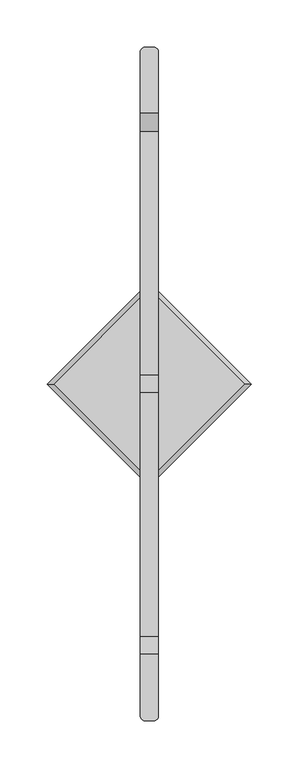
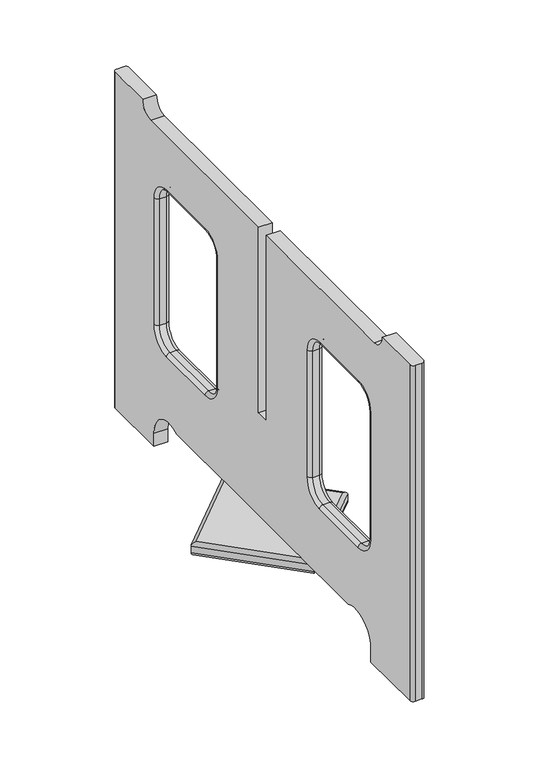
"""IFC4 building model written with IfcOpenShell, lengths in millimetres: furniture geometry, SSL-Childcraft_Outdoor-Table-Round : 2161358."""

from ifc_helpers import new_model, si_unit, point, frame, origin, place, context, project, spatial, polyline, circle_curve, ellipse_curve, trimmed, source, transform, mapped, element, save
from ifc_brep_helpers import plane_surface, cylinder_surface, revolved_surface, advanced_brep


def furniture_97a84487(model_context):
    return source(origin(), model_context, "Body", "AdvancedBrep", [
        advanced_brep(
        [(0.0, -107.7630735, 36.5124717), (0.0, -101.0278814, 31.7499717), (101.0278814, 0.0, 31.7499717), (107.7630735, 0.0, 36.5124717), (107.7630735, 0.0, 46.0374717), (0.0, -107.7630735, 46.0374717), (101.0278814, 0.0, 50.7999717), (0.0, -101.0278814, 50.7999717), (0.0, 101.0278814, 31.7499717), (0.0, 107.7630735, 36.5124717), (0.0, 107.7630735, 46.0374717), (0.0, 101.0278814, 50.7999717), (-101.0278814, 0.0, 31.7499717), (-107.7630735, 0.0, 36.5124717), (-107.7630735, 0.0, 46.0374717), (-101.0278814, 0.0, 50.7999717)],
        [
            (0, 1, ellipse_curve(frame((0.0, -101.0278814, 36.5124717), z_axis=(1.0, 0.0, 0.0), x_axis=(0.0, -1.0, 0.0)), 6.7351921, 4.7625)),
            (1, 2),
            (2, 3, ellipse_curve(frame((101.0278814, 0.0, 36.5124717), z_axis=(0.0, -1.0, 0.0), x_axis=(-1.0, 0.0, 0.0)), 6.7351921, 4.7625)),
            (3, 0),
            (3, 4),
            (4, 5),
            (5, 0),
            (4, 6, ellipse_curve(frame((101.0278814, 0.0, 46.0374717), z_axis=(0.0, -1.0, 0.0), x_axis=(-1.0, 0.0, 0.0)), 6.7351921, 4.7625)),
            (6, 7),
            (7, 5, ellipse_curve(frame((0.0, -101.0278814, 46.0374717), z_axis=(1.0, 0.0, 0.0), x_axis=(0.0, -1.0, 0.0)), 6.7351921, 4.7625)),
            (2, 8),
            (8, 9, ellipse_curve(frame((0.0, 101.0278814, 36.5124717), z_axis=(1.0, 0.0, 0.0), x_axis=(0.0, -1.0, 0.0)), 6.7351921, 4.7625)),
            (9, 3),
            (9, 10),
            (10, 4),
            (10, 11, ellipse_curve(frame((0.0, 101.0278814, 46.0374717), z_axis=(1.0, 0.0, 0.0), x_axis=(0.0, -1.0, 0.0)), 6.7351921, 4.7625)),
            (11, 6),
            (8, 12),
            (12, 13, ellipse_curve(frame((-101.0278814, 0.0, 36.5124717), z_axis=(0.0, 1.0, 0.0), x_axis=(1.0, 0.0, 0.0)), 6.7351921, 4.7625)),
            (13, 9),
            (13, 14),
            (14, 10),
            (14, 15, ellipse_curve(frame((-101.0278814, 0.0, 46.0374717), z_axis=(0.0, 1.0, 0.0), x_axis=(1.0, 0.0, 0.0)), 6.7351921, 4.7625)),
            (15, 11),
            (1, 12),
            (0, 13),
            (5, 14),
            (7, 15),
        ],
        [
            cylinder_surface(frame((-3.367596, -104.3954774, 36.5124717), z_axis=(-0.7071067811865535, -0.7071067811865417, 0.0), x_axis=(-0.7071067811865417, 0.7071067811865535, 0.0)), 4.7625),
            plane_surface(frame((0.0, -107.7630735, 36.5124717), z_axis=(0.7071067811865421, -0.707106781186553, 0.0), x_axis=(0.707106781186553, 0.7071067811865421, 0.0))),
            cylinder_surface(frame((-3.367596, -104.3954774, 46.0374717), z_axis=(-0.7071067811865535, -0.7071067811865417, 0.0), x_axis=(-0.7071067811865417, 0.7071067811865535, 0.0)), 4.7625),
            cylinder_surface(frame((104.3954774, -3.367596, 36.5124717), z_axis=(0.7071067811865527, -0.7071067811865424, 0.0), x_axis=(-0.7071067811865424, -0.7071067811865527, 0.0)), 4.7625),
            plane_surface(frame((107.7630735, 0.0, 36.5124717), z_axis=(0.7071067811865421, 0.707106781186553, 0.0), x_axis=(-0.707106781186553, 0.7071067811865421, 0.0))),
            cylinder_surface(frame((104.3954774, -3.367596, 46.0374717), z_axis=(0.7071067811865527, -0.7071067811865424, 0.0), x_axis=(-0.7071067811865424, -0.7071067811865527, 0.0)), 4.7625),
            cylinder_surface(frame((3.367596, 104.3954774, 36.5124717), z_axis=(0.7071067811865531, 0.707106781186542, 0.0), x_axis=(0.707106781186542, -0.7071067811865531, 0.0)), 4.7625),
            plane_surface(frame((0.0, 107.7630735, 36.5124717), z_axis=(-0.7071067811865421, 0.707106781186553, 0.0), x_axis=(-0.707106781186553, -0.7071067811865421, 0.0))),
            cylinder_surface(frame((3.367596, 104.3954774, 46.0374717), z_axis=(0.7071067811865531, 0.707106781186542, 0.0), x_axis=(0.707106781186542, -0.7071067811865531, 0.0)), 4.7625),
            plane_surface(frame((-99.9053493, 0.0, 31.7499717), z_axis=(0.0, 0.0, -1.0), x_axis=(0.7071067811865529, -0.7071067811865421, 0.0))),
            cylinder_surface(frame((-104.3954774, 3.367596, 36.5124717), z_axis=(-0.707106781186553, 0.707106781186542, 0.0), x_axis=(0.707106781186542, 0.707106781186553, 0.0)), 4.7625),
            plane_surface(frame((-107.7630735, 0.0, 36.5124717), z_axis=(-0.7071067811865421, -0.707106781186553, 0.0), x_axis=(0.707106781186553, -0.7071067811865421, 0.0))),
            cylinder_surface(frame((-104.3954774, 3.367596, 46.0374717), z_axis=(-0.707106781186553, 0.707106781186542, 0.0), x_axis=(0.707106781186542, 0.707106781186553, 0.0)), 4.7625),
            plane_surface(frame((-101.0278814, 0.0, 50.7999717), z_axis=(0.0, 0.0, 1.0000000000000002), x_axis=(0.707106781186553, -0.7071067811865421, 0.0))),
        ],
        [
            (0, [[1, 2, 3, 4]]),
            (1, [[-4, 5, 6, 7]]),
            (2, [[-6, 8, 9, 10]]),
            (3, [[-3, 11, 12, 13]]),
            (4, [[-5, -13, 14, 15]]),
            (5, [[-8, -15, 16, 17]]),
            (6, [[-12, 18, 19, 20]]),
            (7, [[-14, -20, 21, 22]]),
            (8, [[-16, -22, 23, 24]]),
            (9, [[-2, 25, -18, -11]]),
            (10, [[-1, 26, -19, -25]]),
            (11, [[-7, 27, -21, -26]]),
            (12, [[-10, 28, -23, -27]]),
            (13, [[-9, -17, -24, -28]]),
        ],
    ),
        advanced_brep(
        [(9.525, 9.525, 469.899954), (9.525, 9.525, 200.0249575), (9.525, -9.525, 200.0249575), (9.525, -9.525, 469.899954), (9.525, -266.7, 469.899954), (9.525, -285.7499947, 488.9499487), (9.525, -350.8375, 488.95), (9.525, -350.8375, 0.0), (9.525, -258.7625106, 0.0), (9.525, -258.7625106, 19.0499717), (9.525, -204.2194766, 50.7999717), (9.525, 204.2194554, 50.7999717), (9.525, 258.7624894, 19.0499717), (9.525, 258.7624894, 0.0), (9.525, 350.8375, 0.0), (9.525, 350.8375, 488.95), (9.525, 285.7500064, 488.9499636), (9.525, 266.6999968, 469.899954), (9.525, -257.9687606, 361.9372433), (9.525, -228.5873106, 391.3186933), (9.525, -136.5250106, 391.3186933), (9.525, -107.1562606, 361.9499433), (9.525, -107.1562606, 177.7999717), (9.525, -136.5250106, 148.4312217), (9.525, -228.6000106, 148.4312217), (9.525, -257.9687606, 177.7999717), (9.525, 107.1562606, 361.9499433), (9.525, 136.5250106, 391.3186933), (9.525, 228.5873106, 391.3186933), (9.525, 257.9687606, 361.9372433), (9.525, 257.9687606, 177.7999717), (9.525, 228.6000106, 148.4312217), (9.525, 136.5250106, 148.4312217), (9.525, 107.1562606, 177.7999717), (-9.525, 9.525, 469.899954), (-9.525, 266.6999968, 469.899954), (-9.525, 285.7500064, 488.9499636), (-9.525, 350.8375, 488.95), (-9.525, 350.8375, 0.0), (-9.525, 258.7624894, 0.0), (-9.525, 258.7624894, 19.0499717), (-9.525, 204.2194554, 50.7999717), (-9.525, -204.2194766, 50.7999717), (-9.525, -258.7625106, 19.0499717), (-9.525, -258.7625106, 0.0), (-9.525, -350.8375, 0.0), (-9.525, -350.8375, 488.95), (-9.525, -285.7499947, 488.9499487), (-9.525, -266.7, 469.899954), (-9.525, -9.525, 469.899954), (-9.525, -9.525, 200.0249575), (-9.525, 9.525, 200.0249575), (-9.525, -228.5873106, 391.3186933), (-9.525, -257.9687606, 361.9372433), (-9.525, -257.9687606, 177.7999717), (-9.525, -228.6000106, 148.4312217), (-9.525, -136.5250106, 148.4312217), (-9.525, -107.1562606, 177.7999717), (-9.525, -107.1562606, 361.9499433), (-9.525, -136.5250106, 391.3186933), (-9.525, 136.5250106, 391.3186933), (-9.525, 107.1562606, 361.9499433), (-9.525, 107.1562606, 177.7999717), (-9.525, 136.5250106, 148.4312217), (-9.525, 228.6000106, 148.4312217), (-9.525, 257.9687606, 177.7999717), (-9.525, 257.9687606, 361.9372433), (-9.525, 228.5873106, 391.3186933), (-4.7625, 355.6, 0.0), (4.7625, 355.6, 0.0), (4.7625, -355.6, 0.0), (-4.7625, -355.6, 0.0), (4.7625, 355.6, 488.9499636), (-4.7625, 355.6, 488.9499636), (-4.7625, -355.6, 488.9499636), (4.7625, -355.6, 488.9499636), (4.7625, -253.2062606, 361.9372433), (4.7625, -228.5873106, 386.5561933), (-4.7625, -253.2062606, 361.9372433), (-4.7625, -228.5873106, 386.5561933), (4.7625, -253.2062606, 177.7999717), (-4.7625, -253.2062606, 177.7999717), (4.7625, -228.6000106, 153.1937217), (-4.7625, -228.6000106, 153.1937217), (4.7625, -136.5250106, 153.1937217), (-4.7625, -136.5250106, 153.1937217), (4.7625, -111.9187606, 177.7999717), (-4.7625, -111.9187606, 177.7999717), (4.7625, -111.9187606, 361.9499433), (-4.7625, -111.9187606, 361.9499433), (4.7625, -136.5250106, 386.5561933), (-4.7625, -136.5250106, 386.5561933), (4.7625, 111.9187606, 361.9499433), (4.7625, 136.5250106, 386.5561933), (-4.7625, 111.9187606, 361.9499433), (-4.7625, 136.5250106, 386.5561933), (4.7625, 111.9187606, 177.7999717), (-4.7625, 111.9187606, 177.7999717), (4.7625, 136.5250106, 153.1937217), (-4.7625, 136.5250106, 153.1937217), (4.7625, 228.6000106, 153.1937217), (-4.7625, 228.6000106, 153.1937217), (4.7625, 253.2062606, 177.7999717), (-4.7625, 253.2062606, 177.7999717), (4.7625, 253.2062606, 361.9372433), (-4.7625, 253.2062606, 361.9372433), (4.7625, 228.5873106, 386.5561933), (-4.7625, 228.5873106, 386.5561933)],
        [
            (0, 1),
            (1, 2),
            (2, 3),
            (3, 4),
            (4, 5, circle_curve(frame((9.525, -266.7, 488.9499487), z_axis=(-1.0, 0.0, 0.0), x_axis=(0.0, 1.0, 0.0)), 19.0499947)),
            (5, 6),
            (6, 7),
            (7, 8),
            (8, 9),
            (9, 10, circle_curve(frame((9.525, -222.2500106, 19.0499717), z_axis=(-1.0, 0.0, 0.0), x_axis=(0.0, 1.0, 0.0)), 36.5125)),
            (10, 11),
            (11, 12, circle_curve(frame((9.525, 222.2499894, 19.0499717), z_axis=(-1.0, 0.0, 0.0), x_axis=(0.0, 1.0, 0.0)), 36.5125)),
            (12, 13),
            (13, 14),
            (14, 15),
            (15, 16),
            (16, 17, circle_curve(frame((9.525, 266.6999968, 488.9499636), z_axis=(-1.0, 0.0, 0.0), x_axis=(0.0, 1.0, 0.0)), 19.0500096)),
            (17, 0),
            (18, 19, circle_curve(frame((9.525, -228.5873106, 361.9372433), z_axis=(-1.0, 0.0, 0.0), x_axis=(0.0, 0.0, 1.0)), 29.38145)),
            (19, 20),
            (20, 21, circle_curve(frame((9.525, -136.5250106, 361.9499433), z_axis=(-1.0, 0.0, 0.0), x_axis=(0.0, 1.0, 0.0)), 29.36875)),
            (21, 22),
            (22, 23, circle_curve(frame((9.525, -136.5250106, 177.7999717), z_axis=(-1.0, 0.0, 0.0), x_axis=(0.0, 0.0, -1.0)), 29.36875)),
            (23, 24),
            (24, 25, circle_curve(frame((9.525, -228.6000106, 177.7999717), z_axis=(-1.0, 0.0, 0.0), x_axis=(0.0, -1.0, 0.0)), 29.36875)),
            (25, 18),
            (26, 27, circle_curve(frame((9.525, 136.5250106, 361.9499433), z_axis=(-1.0, 0.0, 0.0), x_axis=(0.0, 0.0, 1.0)), 29.36875)),
            (27, 28),
            (28, 29, circle_curve(frame((9.525, 228.5873106, 361.9372433), z_axis=(-1.0, 0.0, 0.0), x_axis=(0.0, 1.0, 0.0)), 29.38145)),
            (29, 30),
            (30, 31, circle_curve(frame((9.525, 228.6000106, 177.7999717), z_axis=(-1.0, 0.0, 0.0), x_axis=(0.0, 0.0, -1.0)), 29.36875)),
            (31, 32),
            (32, 33, circle_curve(frame((9.525, 136.5250106, 177.7999717), z_axis=(-1.0, 0.0, 0.0), x_axis=(0.0, -1.0, 0.0)), 29.36875)),
            (33, 26),
            (34, 35),
            (35, 36, circle_curve(frame((-9.525, 266.6999968, 488.9499636), z_axis=(1.0, 0.0, 0.0), x_axis=(0.0, 1.0, 0.0)), 19.0500096)),
            (36, 37),
            (37, 38),
            (38, 39),
            (39, 40),
            (40, 41, circle_curve(frame((-9.525, 222.2499894, 19.0499717), z_axis=(1.0, 0.0, 0.0), x_axis=(0.0, 1.0, 0.0)), 36.5125)),
            (41, 42),
            (42, 43, circle_curve(frame((-9.525, -222.2500106, 19.0499717), z_axis=(1.0, 0.0, 0.0), x_axis=(0.0, 1.0, 0.0)), 36.5125)),
            (43, 44),
            (44, 45),
            (45, 46),
            (46, 47),
            (47, 48, circle_curve(frame((-9.525, -266.7, 488.9499487), z_axis=(1.0, 0.0, 0.0), x_axis=(0.0, 1.0, 0.0)), 19.0499947)),
            (48, 49),
            (49, 50),
            (50, 51),
            (51, 34),
            (52, 53, circle_curve(frame((-9.525, -228.5873106, 361.9372433), z_axis=(1.0, 0.0, 0.0), x_axis=(0.0, 0.0, 1.0)), 29.38145)),
            (53, 54),
            (54, 55, circle_curve(frame((-9.525, -228.6000106, 177.7999717), z_axis=(1.0, 0.0, 0.0), x_axis=(0.0, -1.0, 0.0)), 29.36875)),
            (55, 56),
            (56, 57, circle_curve(frame((-9.525, -136.5250106, 177.7999717), z_axis=(1.0, 0.0, 0.0), x_axis=(0.0, 0.0, -1.0)), 29.36875)),
            (57, 58),
            (58, 59, circle_curve(frame((-9.525, -136.5250106, 361.9499433), z_axis=(1.0, 0.0, 0.0), x_axis=(0.0, 1.0, 0.0)), 29.36875)),
            (59, 52),
            (60, 61, circle_curve(frame((-9.525, 136.5250106, 361.9499433), z_axis=(1.0, 0.0, 0.0), x_axis=(0.0, 0.0, 1.0)), 29.36875)),
            (61, 62),
            (62, 63, circle_curve(frame((-9.525, 136.5250106, 177.7999717), z_axis=(1.0, 0.0, 0.0), x_axis=(0.0, -1.0, 0.0)), 29.36875)),
            (63, 64),
            (64, 65, circle_curve(frame((-9.525, 228.6000106, 177.7999717), z_axis=(1.0, 0.0, 0.0), x_axis=(0.0, 0.0, -1.0)), 29.36875)),
            (65, 66),
            (66, 67, circle_curve(frame((-9.525, 228.5873106, 361.9372433), z_axis=(1.0, 0.0, 0.0), x_axis=(0.0, 1.0, 0.0)), 29.38145)),
            (67, 60),
            (13, 39),
            (38, 68, circle_curve(frame((-4.7625, 350.8375, 0.0), z_axis=(0.0, 0.0, -1.0), x_axis=(1.0, 0.0, 0.0)), 4.7625)),
            (68, 69),
            (69, 14, circle_curve(frame((4.7625, 350.8375, 0.0), z_axis=(0.0, 0.0, -1.0), x_axis=(1.0, 0.0, 0.0)), 4.7625)),
            (44, 8),
            (7, 70, circle_curve(frame((4.7625, -350.8375, 0.0), z_axis=(0.0, 0.0, -1.0), x_axis=(1.0, 0.0, 0.0)), 4.7625)),
            (70, 71),
            (71, 45, circle_curve(frame((-4.7625, -350.8375, 0.0), z_axis=(0.0, 0.0, -1.0), x_axis=(1.0, 0.0, 0.0)), 4.7625)),
            (36, 16),
            (15, 72, circle_curve(frame((4.7625, 350.8375, 488.9499636), z_axis=(0.0, 0.0, 1.0), x_axis=(1.0, 0.0, 0.0)), 4.7625)),
            (72, 73),
            (73, 37, circle_curve(frame((-4.7625, 350.8375, 488.9499636), z_axis=(0.0, 0.0, 1.0), x_axis=(1.0, 0.0, 0.0)), 4.7625)),
            (5, 47),
            (46, 74, circle_curve(frame((-4.7625, -350.8375, 488.9499636), z_axis=(0.0, 0.0, 1.0), x_axis=(1.0, 0.0, 0.0)), 4.7625)),
            (74, 75),
            (75, 6, circle_curve(frame((4.7625, -350.8375, 488.9499636), z_axis=(0.0, 0.0, 1.0), x_axis=(1.0, 0.0, 0.0)), 4.7625)),
            (35, 17),
            (34, 0),
            (51, 1),
            (50, 2),
            (49, 3),
            (48, 4),
            (43, 9),
            (42, 10),
            (41, 11),
            (40, 12),
            (72, 69),
            (68, 73),
            (71, 74),
            (70, 75),
            (76, 77, circle_curve(frame((4.7625, -228.5873106, 361.9372433), z_axis=(-1.0, 0.0, 0.0), x_axis=(0.0, 0.0, 1.0)), 24.61895)),
            (77, 19, circle_curve(frame((4.7625, -228.5873106, 391.3186933), z_axis=(0.0, -1.0, 0.0), x_axis=(0.0, 0.0, -1.0)), 4.7625)),
            (18, 76, circle_curve(frame((4.7625, -257.9687606, 361.9372433), z_axis=(0.0, 0.0, 1.0), x_axis=(0.0, 1.0, 0.0)), 4.7625)),
            (76, 78),
            (78, 79, circle_curve(frame((-4.7625, -228.5873106, 361.9372433), z_axis=(-1.0, 0.0, 0.0), x_axis=(0.0, 0.0, 1.0)), 24.61895)),
            (79, 77),
            (78, 53, circle_curve(frame((-4.7625, -257.9687606, 361.9372433), z_axis=(0.0, 0.0, 1.0), x_axis=(0.0, 1.0, 0.0)), 4.7625)),
            (52, 79, circle_curve(frame((-4.7625, -228.5873106, 391.3186933), z_axis=(0.0, -1.0, 0.0), x_axis=(0.0, 0.0, -1.0)), 4.7625)),
            (25, 80, circle_curve(frame((4.7625, -257.9687606, 177.7999717), z_axis=(0.0, 0.0, 1.0), x_axis=(0.0, 1.0, 0.0)), 4.7625)),
            (80, 76),
            (80, 81),
            (81, 78),
            (81, 54, circle_curve(frame((-4.7625, -257.9687606, 177.7999717), z_axis=(0.0, 0.0, 1.0), x_axis=(0.0, 1.0, 0.0)), 4.7625)),
            (24, 82, circle_curve(frame((4.7625, -228.6000106, 148.4312217), z_axis=(0.0, -1.0, 0.0), x_axis=(0.0, 0.0, 1.0)), 4.7625)),
            (82, 80, circle_curve(frame((4.7625, -228.6000106, 177.7999717), z_axis=(-1.0, 0.0, 0.0), x_axis=(0.0, -1.0, 0.0)), 24.60625)),
            (82, 83),
            (83, 81, circle_curve(frame((-4.7625, -228.6000106, 177.7999717), z_axis=(-1.0, 0.0, 0.0), x_axis=(0.0, -1.0, 0.0)), 24.60625)),
            (83, 55, circle_curve(frame((-4.7625, -228.6000106, 148.4312217), z_axis=(0.0, -1.0, 0.0), x_axis=(0.0, 0.0, 1.0)), 4.7625)),
            (23, 84, circle_curve(frame((4.7625, -136.5250106, 148.4312217), z_axis=(0.0, -1.0, 0.0), x_axis=(0.0, 0.0, 1.0)), 4.7625)),
            (84, 82),
            (84, 85),
            (85, 83),
            (85, 56, circle_curve(frame((-4.7625, -136.5250106, 148.4312217), z_axis=(0.0, -1.0, 0.0), x_axis=(0.0, 0.0, 1.0)), 4.7625)),
            (22, 86, circle_curve(frame((4.7625, -107.1562606, 177.7999717), z_axis=(0.0, 0.0, -1.0), x_axis=(0.0, -1.0, 0.0)), 4.7625)),
            (86, 84, circle_curve(frame((4.7625, -136.5250106, 177.7999717), z_axis=(-1.0, 0.0, 0.0), x_axis=(0.0, 0.0, -1.0)), 24.60625)),
            (86, 87),
            (87, 85, circle_curve(frame((-4.7625, -136.5250106, 177.7999717), z_axis=(-1.0, 0.0, 0.0), x_axis=(0.0, 0.0, -1.0)), 24.60625)),
            (87, 57, circle_curve(frame((-4.7625, -107.1562606, 177.7999717), z_axis=(0.0, 0.0, -1.0), x_axis=(0.0, -1.0, 0.0)), 4.7625)),
            (21, 88, circle_curve(frame((4.7625, -107.1562606, 361.9499433), z_axis=(0.0, 0.0, -1.0), x_axis=(0.0, -1.0, 0.0)), 4.7625)),
            (88, 86),
            (88, 89),
            (89, 87),
            (89, 58, circle_curve(frame((-4.7625, -107.1562606, 361.9499433), z_axis=(0.0, 0.0, -1.0), x_axis=(0.0, -1.0, 0.0)), 4.7625)),
            (20, 90, circle_curve(frame((4.7625, -136.5250106, 391.3186933), z_axis=(0.0, 1.0, 0.0), x_axis=(0.0, 0.0, -1.0)), 4.7625)),
            (90, 88, circle_curve(frame((4.7625, -136.5250106, 361.9499433), z_axis=(-1.0, 0.0, 0.0), x_axis=(0.0, 1.0, 0.0)), 24.60625)),
            (90, 91),
            (91, 89, circle_curve(frame((-4.7625, -136.5250106, 361.9499433), z_axis=(-1.0, 0.0, 0.0), x_axis=(0.0, 1.0, 0.0)), 24.60625)),
            (91, 59, circle_curve(frame((-4.7625, -136.5250106, 391.3186933), z_axis=(0.0, 1.0, 0.0), x_axis=(0.0, 0.0, -1.0)), 4.7625)),
            (77, 90),
            (79, 91),
            (92, 93, circle_curve(frame((4.7625, 136.5250106, 361.9499433), z_axis=(-1.0, 0.0, 0.0), x_axis=(0.0, 0.0, 1.0)), 24.60625)),
            (93, 27, circle_curve(frame((4.7625, 136.5250106, 391.3186933), z_axis=(0.0, -1.0, 0.0), x_axis=(0.0, 0.0, -1.0)), 4.7625)),
            (26, 92, circle_curve(frame((4.7625, 107.1562606, 361.9499433), z_axis=(0.0, 0.0, 1.0), x_axis=(0.0, 1.0, 0.0)), 4.7625)),
            (92, 94),
            (94, 95, circle_curve(frame((-4.7625, 136.5250106, 361.9499433), z_axis=(-1.0, 0.0, 0.0), x_axis=(0.0, 0.0, 1.0)), 24.60625)),
            (95, 93),
            (94, 61, circle_curve(frame((-4.7625, 107.1562606, 361.9499433), z_axis=(0.0, 0.0, 1.0), x_axis=(0.0, 1.0, 0.0)), 4.7625)),
            (60, 95, circle_curve(frame((-4.7625, 136.5250106, 391.3186933), z_axis=(0.0, -1.0, 0.0), x_axis=(0.0, 0.0, -1.0)), 4.7625)),
            (33, 96, circle_curve(frame((4.7625, 107.1562606, 177.7999717), z_axis=(0.0, 0.0, 1.0), x_axis=(0.0, 1.0, 0.0)), 4.7625)),
            (96, 92),
            (96, 97),
            (97, 94),
            (97, 62, circle_curve(frame((-4.7625, 107.1562606, 177.7999717), z_axis=(0.0, 0.0, 1.0), x_axis=(0.0, 1.0, 0.0)), 4.7625)),
            (32, 98, circle_curve(frame((4.7625, 136.5250106, 148.4312217), z_axis=(0.0, -1.0, 0.0), x_axis=(0.0, 0.0, 1.0)), 4.7625)),
            (98, 96, circle_curve(frame((4.7625, 136.5250106, 177.7999717), z_axis=(-1.0, 0.0, 0.0), x_axis=(0.0, -1.0, 0.0)), 24.60625)),
            (98, 99),
            (99, 97, circle_curve(frame((-4.7625, 136.5250106, 177.7999717), z_axis=(-1.0, 0.0, 0.0), x_axis=(0.0, -1.0, 0.0)), 24.60625)),
            (99, 63, circle_curve(frame((-4.7625, 136.5250106, 148.4312217), z_axis=(0.0, -1.0, 0.0), x_axis=(0.0, 0.0, 1.0)), 4.7625)),
            (31, 100, circle_curve(frame((4.7625, 228.6000106, 148.4312217), z_axis=(0.0, -1.0, 0.0), x_axis=(0.0, 0.0, 1.0)), 4.7625)),
            (100, 98),
            (100, 101),
            (101, 99),
            (101, 64, circle_curve(frame((-4.7625, 228.6000106, 148.4312217), z_axis=(0.0, -1.0, 0.0), x_axis=(0.0, 0.0, 1.0)), 4.7625)),
            (30, 102, circle_curve(frame((4.7625, 257.9687606, 177.7999717), z_axis=(0.0, 0.0, -1.0), x_axis=(0.0, -1.0, 0.0)), 4.7625)),
            (102, 100, circle_curve(frame((4.7625, 228.6000106, 177.7999717), z_axis=(-1.0, 0.0, 0.0), x_axis=(0.0, 0.0, -1.0)), 24.60625)),
            (102, 103),
            (103, 101, circle_curve(frame((-4.7625, 228.6000106, 177.7999717), z_axis=(-1.0, 0.0, 0.0), x_axis=(0.0, 0.0, -1.0)), 24.60625)),
            (103, 65, circle_curve(frame((-4.7625, 257.9687606, 177.7999717), z_axis=(0.0, 0.0, -1.0), x_axis=(0.0, -1.0, 0.0)), 4.7625)),
            (29, 104, circle_curve(frame((4.7625, 257.9687606, 361.9372433), z_axis=(0.0, 0.0, -1.0), x_axis=(0.0, -1.0, 0.0)), 4.7625)),
            (104, 102),
            (104, 105),
            (105, 103),
            (105, 66, circle_curve(frame((-4.7625, 257.9687606, 361.9372433), z_axis=(0.0, 0.0, -1.0), x_axis=(0.0, -1.0, 0.0)), 4.7625)),
            (28, 106, circle_curve(frame((4.7625, 228.5873106, 391.3186933), z_axis=(0.0, 1.0, 0.0), x_axis=(0.0, 0.0, -1.0)), 4.7625)),
            (106, 104, circle_curve(frame((4.7625, 228.5873106, 361.9372433), z_axis=(-1.0, 0.0, 0.0), x_axis=(0.0, 1.0, 0.0)), 24.61895)),
            (106, 107),
            (107, 105, circle_curve(frame((-4.7625, 228.5873106, 361.9372433), z_axis=(-1.0, 0.0, 0.0), x_axis=(0.0, 1.0, 0.0)), 24.61895)),
            (107, 67, circle_curve(frame((-4.7625, 228.5873106, 391.3186933), z_axis=(0.0, 1.0, 0.0), x_axis=(0.0, 0.0, -1.0)), 4.7625)),
            (93, 106),
            (95, 107),
        ],
        [
            plane_surface(frame((9.525, 258.7625106, 177.7999717), z_axis=(1.0, 0.0, 0.0), x_axis=(0.0, 0.0, -1.0))),
            plane_surface(frame((-9.525, 258.7625106, 177.7999717), z_axis=(-1.0, 0.0, 0.0), x_axis=(0.0, 0.0, 1.0))),
            plane_surface(frame((9.525, 258.7624894, 0.0), z_axis=(0.0, 0.0, -1.0), x_axis=(-1.0, 0.0, 0.0))),
            plane_surface(frame((9.525, 350.04375, 488.9499636), z_axis=(0.0, 0.0, 1.0), x_axis=(-1.0, 0.0, 0.0))),
            revolved_surface(polyline([(-9.525, 285.7500064, 488.9499636), (9.525, 285.7500064, 488.9499636)]), (0.0, 266.6999968, 488.9499636), (-1.0, 0.0, 0.0)),
            plane_surface(frame((9.525, 266.6999968, 469.899954), z_axis=(0.0, 0.0, 1.0), x_axis=(-1.0, 0.0, 0.0))),
            plane_surface(frame((9.525, 9.525, 469.899954), z_axis=(0.0, -1.0, 0.0), x_axis=(-1.0, 0.0, 0.0))),
            plane_surface(frame((9.525, 9.525, 200.0249575), z_axis=(0.0, 0.0, 1.0), x_axis=(-1.0, 0.0, 0.0))),
            plane_surface(frame((9.525, -9.525, 200.0249575), z_axis=(0.0, 1.0, 0.0), x_axis=(-1.0, 0.0, 0.0))),
            plane_surface(frame((9.525, -9.525, 469.899954), z_axis=(0.0, 0.0, 1.0), x_axis=(-1.0, 0.0, 0.0))),
            revolved_surface(polyline([(-9.525, -247.65000529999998, 488.9499487), (9.525, -247.65000529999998, 488.9499487)]), (0.0, -266.7, 488.9499487), (-1.0, 0.0, 0.0)),
            plane_surface(frame((9.525, -258.7625106, 0.0), z_axis=(0.0, 1.0, 0.0), x_axis=(-1.0, 0.0, 0.0))),
            revolved_surface(polyline([(-9.525, -185.7375106, 19.0499717), (9.525, -185.7375106, 19.0499717)]), (0.0, -222.2500106, 19.0499717), (-1.0, 0.0, 0.0)),
            plane_surface(frame((9.525, -204.2194766, 50.7999717), z_axis=(0.0, 0.0, -1.0), x_axis=(-1.0, 0.0, 0.0))),
            revolved_surface(polyline([(-9.525, 258.7624894, 19.0499717), (9.525, 258.7624894, 19.0499717)]), (0.0, 222.2499894, 19.0499717), (-1.0, 0.0, 0.0)),
            plane_surface(frame((9.525, 258.7624894, 19.0499717), z_axis=(0.0, -1.0, 0.0), x_axis=(-1.0, 0.0, 0.0))),
            plane_surface(frame((4.7625, 355.6, 488.95), z_axis=(0.0, 1.0, 0.0), x_axis=(0.0, 0.0, -1.0))),
            cylinder_surface(frame((-4.7625, 350.8375, 0.0), z_axis=(0.0, 0.0, 1.0), x_axis=(1.0, 0.0, 0.0)), 4.7625),
            cylinder_surface(frame((4.7625, 350.8375, 0.0), z_axis=(0.0, 0.0, 1.0), x_axis=(1.0, 0.0, 0.0)), 4.7625),
            cylinder_surface(frame((-4.7625, -350.8375, 0.0), z_axis=(0.0, 0.0, 1.0), x_axis=(1.0, 0.0, 0.0)), 4.7625),
            plane_surface(frame((-4.7625, -355.6, 488.95), z_axis=(0.0, -1.0, 0.0), x_axis=(0.0, 0.0, -1.0))),
            cylinder_surface(frame((4.7625, -350.8375, 0.0), z_axis=(0.0, 0.0, 1.0), x_axis=(1.0, 0.0, 0.0)), 4.7625),
            revolved_surface(trimmed(ellipse_curve(frame((4.7625, -228.5873106, 391.3186933), z_axis=(0.0, 1.0, 0.0), x_axis=(0.0, 0.0, -1.0)), 4.7625, 4.7625), [point((9.525, -228.5873106, 391.3186933))], [point((4.7625, -228.5873106, 386.5561933))], True, "CARTESIAN"), (0.0, -228.5873106, 361.9372433), (1.0, 0.0, 0.0)),
            revolved_surface(polyline([(4.7625, -228.5873106, 386.55619329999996), (-4.7625, -228.5873106, 386.55619329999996)]), (0.0, -228.5873106, 361.9372433), (1.0, 0.0, 0.0)),
            revolved_surface(trimmed(ellipse_curve(frame((-4.7625, -228.5873106, 391.3186933), z_axis=(0.0, 1.0, 0.0), x_axis=(0.0, 0.0, -1.0)), 4.7625, 4.7625), [point((-4.7625, -228.5873106, 386.5561933))], [point((-9.525, -228.5873106, 391.3186933))], True, "CARTESIAN"), (0.0, -228.5873106, 361.9372433), (1.0, 0.0, 0.0)),
            cylinder_surface(frame((4.7625, -257.9687606, 361.9372433), z_axis=(0.0, 0.0, 1.0), x_axis=(0.0, 1.0, 0.0)), 4.7625),
            plane_surface(frame((4.7625, -253.2062606, 361.9372433), z_axis=(0.0, 1.0, 0.0), x_axis=(0.0, 0.0, -1.0))),
            cylinder_surface(frame((-4.7625, -257.9687606, 361.9372433), z_axis=(0.0, 0.0, 1.0), x_axis=(0.0, 1.0, 0.0)), 4.7625),
            revolved_surface(trimmed(ellipse_curve(frame((4.7625, -257.9687606, 177.7999717), z_axis=(0.0, 0.0, 1.0), x_axis=(0.0, 1.0, 0.0)), 4.7625, 4.7625), [point((9.525, -257.9687606, 177.7999717))], [point((4.7625, -253.2062606, 177.7999717))], True, "CARTESIAN"), (0.0, -228.6000106, 177.7999717), (1.0, 0.0, 0.0)),
            revolved_surface(polyline([(4.7625, -253.20626059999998, 177.7999717), (-4.7625, -253.20626059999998, 177.7999717)]), (0.0, -228.6000106, 177.7999717), (1.0, 0.0, 0.0)),
            revolved_surface(trimmed(ellipse_curve(frame((-4.7625, -257.9687606, 177.7999717), z_axis=(0.0, 0.0, 1.0), x_axis=(0.0, 1.0, 0.0)), 4.7625, 4.7625), [point((-4.7625, -253.2062606, 177.7999717))], [point((-9.525, -257.9687606, 177.7999717))], True, "CARTESIAN"), (0.0, -228.6000106, 177.7999717), (1.0, 0.0, 0.0)),
            cylinder_surface(frame((4.7625, -228.6000106, 148.4312217), z_axis=(0.0, -1.0, 0.0), x_axis=(0.0, 0.0, 1.0)), 4.7625),
            plane_surface(frame((4.7625, -228.6000106, 153.1937217), z_axis=(0.0, 0.0, 1.0), x_axis=(0.0, 1.0, 0.0))),
            cylinder_surface(frame((-4.7625, -228.6000106, 148.4312217), z_axis=(0.0, -1.0, 0.0), x_axis=(0.0, 0.0, 1.0)), 4.7625),
            revolved_surface(trimmed(ellipse_curve(frame((4.7625, -136.5250106, 148.4312217), z_axis=(0.0, -1.0, 0.0), x_axis=(0.0, 0.0, 1.0)), 4.7625, 4.7625), [point((9.525, -136.5250106, 148.4312217))], [point((4.7625, -136.5250106, 153.1937217))], True, "CARTESIAN"), (0.0, -136.5250106, 177.7999717), (1.0, 0.0, 0.0)),
            revolved_surface(polyline([(4.7625, -136.5250106, 153.1937217), (-4.7625, -136.5250106, 153.1937217)]), (0.0, -136.5250106, 177.7999717), (1.0, 0.0, 0.0)),
            revolved_surface(trimmed(ellipse_curve(frame((-4.7625, -136.5250106, 148.4312217), z_axis=(0.0, -1.0, 0.0), x_axis=(0.0, 0.0, 1.0)), 4.7625, 4.7625), [point((-4.7625, -136.5250106, 153.1937217))], [point((-9.525, -136.5250106, 148.4312217))], True, "CARTESIAN"), (0.0, -136.5250106, 177.7999717), (1.0, 0.0, 0.0)),
            cylinder_surface(frame((4.7625, -107.1562606, 177.7999717), z_axis=(0.0, 0.0, -1.0), x_axis=(0.0, -1.0, 0.0)), 4.7625),
            plane_surface(frame((4.7625, -111.9187606, 177.7999717), z_axis=(0.0, -1.0, 0.0), x_axis=(0.0, 0.0, 1.0))),
            cylinder_surface(frame((-4.7625, -107.1562606, 177.7999717), z_axis=(0.0, 0.0, -1.0), x_axis=(0.0, -1.0, 0.0)), 4.7625),
            revolved_surface(trimmed(ellipse_curve(frame((4.7625, -107.1562606, 361.9499433), z_axis=(0.0, 0.0, -1.0), x_axis=(0.0, -1.0, 0.0)), 4.7625, 4.7625), [point((9.525, -107.1562606, 361.9499433))], [point((4.7625, -111.9187606, 361.9499433))], True, "CARTESIAN"), (0.0, -136.5250106, 361.9499433), (1.0, 0.0, 0.0)),
            revolved_surface(polyline([(4.7625, -111.9187606, 361.9499433), (-4.7625, -111.9187606, 361.9499433)]), (0.0, -136.5250106, 361.9499433), (1.0, 0.0, 0.0)),
            revolved_surface(trimmed(ellipse_curve(frame((-4.7625, -107.1562606, 361.9499433), z_axis=(0.0, 0.0, -1.0), x_axis=(0.0, -1.0, 0.0)), 4.7625, 4.7625), [point((-4.7625, -111.9187606, 361.9499433))], [point((-9.525, -107.1562606, 361.9499433))], True, "CARTESIAN"), (0.0, -136.5250106, 361.9499433), (1.0, 0.0, 0.0)),
            cylinder_surface(frame((4.7625, -136.5250106, 391.3186933), z_axis=(0.0, 1.0, 0.0), x_axis=(0.0, 0.0, -1.0)), 4.7625),
            plane_surface(frame((4.7625, -136.5250106, 386.5561933), z_axis=(0.0, 0.0, -1.0), x_axis=(0.0, -1.0, 0.0))),
            cylinder_surface(frame((-4.7625, -136.5250106, 391.3186933), z_axis=(0.0, 1.0, 0.0), x_axis=(0.0, 0.0, -1.0)), 4.7625),
            revolved_surface(trimmed(ellipse_curve(frame((4.7625, 136.5250106, 391.3186933), z_axis=(0.0, 1.0, 0.0), x_axis=(0.0, 0.0, -1.0)), 4.7625, 4.7625), [point((9.525, 136.5250106, 391.3186933))], [point((4.7625, 136.5250106, 386.5561933))], True, "CARTESIAN"), (0.0, 136.5250106, 361.9499433), (1.0, 0.0, 0.0)),
            revolved_surface(polyline([(4.7625, 136.5250106, 386.55619329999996), (-4.7625, 136.5250106, 386.55619329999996)]), (0.0, 136.5250106, 361.9499433), (1.0, 0.0, 0.0)),
            revolved_surface(trimmed(ellipse_curve(frame((-4.7625, 136.5250106, 391.3186933), z_axis=(0.0, 1.0, 0.0), x_axis=(0.0, 0.0, -1.0)), 4.7625, 4.7625), [point((-4.7625, 136.5250106, 386.5561933))], [point((-9.525, 136.5250106, 391.3186933))], True, "CARTESIAN"), (0.0, 136.5250106, 361.9499433), (1.0, 0.0, 0.0)),
            cylinder_surface(frame((4.7625, 107.1562606, 361.9499433), z_axis=(0.0, 0.0, 1.0), x_axis=(0.0, 1.0, 0.0)), 4.7625),
            plane_surface(frame((4.7625, 111.9187606, 361.9499433), z_axis=(0.0, 1.0, 0.0), x_axis=(0.0, 0.0, -1.0))),
            cylinder_surface(frame((-4.7625, 107.1562606, 361.9499433), z_axis=(0.0, 0.0, 1.0), x_axis=(0.0, 1.0, 0.0)), 4.7625),
            revolved_surface(trimmed(ellipse_curve(frame((4.7625, 107.1562606, 177.7999717), z_axis=(0.0, 0.0, 1.0), x_axis=(0.0, 1.0, 0.0)), 4.7625, 4.7625), [point((9.525, 107.1562606, 177.7999717))], [point((4.7625, 111.9187606, 177.7999717))], True, "CARTESIAN"), (0.0, 136.5250106, 177.7999717), (1.0, 0.0, 0.0)),
            revolved_surface(polyline([(4.7625, 111.9187606, 177.7999717), (-4.7625, 111.9187606, 177.7999717)]), (0.0, 136.5250106, 177.7999717), (1.0, 0.0, 0.0)),
            revolved_surface(trimmed(ellipse_curve(frame((-4.7625, 107.1562606, 177.7999717), z_axis=(0.0, 0.0, 1.0), x_axis=(0.0, 1.0, 0.0)), 4.7625, 4.7625), [point((-4.7625, 111.9187606, 177.7999717))], [point((-9.525, 107.1562606, 177.7999717))], True, "CARTESIAN"), (0.0, 136.5250106, 177.7999717), (1.0, 0.0, 0.0)),
            cylinder_surface(frame((4.7625, 136.5250106, 148.4312217), z_axis=(0.0, -1.0, 0.0), x_axis=(0.0, 0.0, 1.0)), 4.7625),
            plane_surface(frame((4.7625, 136.5250106, 153.1937217), z_axis=(0.0, 0.0, 1.0), x_axis=(0.0, 1.0, 0.0))),
            cylinder_surface(frame((-4.7625, 136.5250106, 148.4312217), z_axis=(0.0, -1.0, 0.0), x_axis=(0.0, 0.0, 1.0)), 4.7625),
            revolved_surface(trimmed(ellipse_curve(frame((4.7625, 228.6000106, 148.4312217), z_axis=(0.0, -1.0, 0.0), x_axis=(0.0, 0.0, 1.0)), 4.7625, 4.7625), [point((9.525, 228.6000106, 148.4312217))], [point((4.7625, 228.6000106, 153.1937217))], True, "CARTESIAN"), (0.0, 228.6000106, 177.7999717), (1.0, 0.0, 0.0)),
            revolved_surface(polyline([(4.7625, 228.6000106, 153.1937217), (-4.7625, 228.6000106, 153.1937217)]), (0.0, 228.6000106, 177.7999717), (1.0, 0.0, 0.0)),
            revolved_surface(trimmed(ellipse_curve(frame((-4.7625, 228.6000106, 148.4312217), z_axis=(0.0, -1.0, 0.0), x_axis=(0.0, 0.0, 1.0)), 4.7625, 4.7625), [point((-4.7625, 228.6000106, 153.1937217))], [point((-9.525, 228.6000106, 148.4312217))], True, "CARTESIAN"), (0.0, 228.6000106, 177.7999717), (1.0, 0.0, 0.0)),
            cylinder_surface(frame((4.7625, 257.9687606, 177.7999717), z_axis=(0.0, 0.0, -1.0), x_axis=(0.0, -1.0, 0.0)), 4.7625),
            plane_surface(frame((4.7625, 253.2062606, 177.7999717), z_axis=(0.0, -1.0, 0.0), x_axis=(0.0, 0.0, 1.0))),
            cylinder_surface(frame((-4.7625, 257.9687606, 177.7999717), z_axis=(0.0, 0.0, -1.0), x_axis=(0.0, -1.0, 0.0)), 4.7625),
            revolved_surface(trimmed(ellipse_curve(frame((4.7625, 257.9687606, 361.9372433), z_axis=(0.0, 0.0, -1.0), x_axis=(0.0, -1.0, 0.0)), 4.7625, 4.7625), [point((9.525, 257.9687606, 361.9372433))], [point((4.7625, 253.2062606, 361.9372433))], True, "CARTESIAN"), (0.0, 228.5873106, 361.9372433), (1.0, 0.0, 0.0)),
            revolved_surface(polyline([(4.7625, 253.2062606, 361.9372433), (-4.7625, 253.2062606, 361.9372433)]), (0.0, 228.5873106, 361.9372433), (1.0, 0.0, 0.0)),
            revolved_surface(trimmed(ellipse_curve(frame((-4.7625, 257.9687606, 361.9372433), z_axis=(0.0, 0.0, -1.0), x_axis=(0.0, -1.0, 0.0)), 4.7625, 4.7625), [point((-4.7625, 253.2062606, 361.9372433))], [point((-9.525, 257.9687606, 361.9372433))], True, "CARTESIAN"), (0.0, 228.5873106, 361.9372433), (1.0, 0.0, 0.0)),
            cylinder_surface(frame((4.7625, 228.5873106, 391.3186933), z_axis=(0.0, 1.0, 0.0), x_axis=(0.0, 0.0, -1.0)), 4.7625),
            plane_surface(frame((4.7625, 228.5873106, 386.5561933), z_axis=(0.0, 0.0, -1.0), x_axis=(0.0, -1.0, 0.0))),
            cylinder_surface(frame((-4.7625, 228.5873106, 391.3186933), z_axis=(0.0, 1.0, 0.0), x_axis=(0.0, 0.0, -1.0)), 4.7625),
        ],
        [
            (0, [[1, 2, 3, 4, 5, 6, 7, 8, 9, 10, 11, 12, 13, 14, 15, 16, 17, 18], [19, 20, 21, 22, 23, 24, 25, 26], [27, 28, 29, 30, 31, 32, 33, 34]]),
            (1, [[35, 36, 37, 38, 39, 40, 41, 42, 43, 44, 45, 46, 47, 48, 49, 50, 51, 52], [53, 54, 55, 56, 57, 58, 59, 60], [61, 62, 63, 64, 65, 66, 67, 68]]),
            (2, [[69, -39, 70, 71, 72, -14]]),
            (2, [[73, -8, 74, 75, 76, -45]]),
            (3, [[77, -16, 78, 79, 80, -37]]),
            (3, [[81, -47, 82, 83, 84, -6]]),
            (4, [[-17, -77, -36, 85]]),
            (5, [[-18, -85, -35, 86]]),
            (6, [[-1, -86, -52, 87]]),
            (7, [[-2, -87, -51, 88]]),
            (8, [[-3, -88, -50, 89]]),
            (9, [[-4, -89, -49, 90]]),
            (10, [[-5, -90, -48, -81]]),
            (11, [[-9, -73, -44, 91]]),
            (12, [[-10, -91, -43, 92]]),
            (13, [[-11, -92, -42, 93]]),
            (14, [[-12, -93, -41, 94]]),
            (15, [[-13, -94, -40, -69]]),
            (16, [[-79, 95, -71, 96]]),
            (17, [[-80, -96, -70, -38]]),
            (18, [[-78, -15, -72, -95]]),
            (19, [[-82, -46, -76, 97]]),
            (20, [[-83, -97, -75, 98]]),
            (21, [[-84, -98, -74, -7]]),
            (22, [[99, 100, -19, 101]]),
            (23, [[-99, 102, 103, 104]]),
            (24, [[-103, 105, -53, 106]]),
            (25, [[-101, -26, 107, 108]]),
            (26, [[-102, -108, 109, 110]]),
            (27, [[-105, -110, 111, -54]]),
            (28, [[-107, -25, 112, 113]]),
            (29, [[-109, -113, 114, 115]]),
            (30, [[-111, -115, 116, -55]]),
            (31, [[-112, -24, 117, 118]]),
            (32, [[-114, -118, 119, 120]]),
            (33, [[-116, -120, 121, -56]]),
            (34, [[-117, -23, 122, 123]]),
            (35, [[-119, -123, 124, 125]]),
            (36, [[-121, -125, 126, -57]]),
            (37, [[-122, -22, 127, 128]]),
            (38, [[-124, -128, 129, 130]]),
            (39, [[-126, -130, 131, -58]]),
            (40, [[-127, -21, 132, 133]]),
            (41, [[-129, -133, 134, 135]]),
            (42, [[-131, -135, 136, -59]]),
            (43, [[-100, 137, -132, -20]]),
            (44, [[-104, 138, -134, -137]]),
            (45, [[-106, -60, -136, -138]]),
            (46, [[139, 140, -27, 141]]),
            (47, [[-139, 142, 143, 144]]),
            (48, [[-143, 145, -61, 146]]),
            (49, [[-141, -34, 147, 148]]),
            (50, [[-142, -148, 149, 150]]),
            (51, [[-145, -150, 151, -62]]),
            (52, [[-147, -33, 152, 153]]),
            (53, [[-149, -153, 154, 155]]),
            (54, [[-151, -155, 156, -63]]),
            (55, [[-152, -32, 157, 158]]),
            (56, [[-154, -158, 159, 160]]),
            (57, [[-156, -160, 161, -64]]),
            (58, [[-157, -31, 162, 163]]),
            (59, [[-159, -163, 164, 165]]),
            (60, [[-161, -165, 166, -65]]),
            (61, [[-162, -30, 167, 168]]),
            (62, [[-164, -168, 169, 170]]),
            (63, [[-166, -170, 171, -66]]),
            (64, [[-167, -29, 172, 173]]),
            (65, [[-169, -173, 174, 175]]),
            (66, [[-171, -175, 176, -67]]),
            (67, [[-140, 177, -172, -28]]),
            (68, [[-144, 178, -174, -177]]),
            (69, [[-146, -68, -176, -178]]),
        ],
    ),
    ])


if __name__ == "__main__":
    model = new_model("IFC4")
    model_context = context("Model", 3, world=origin())
    ifc_project = project(units=[si_unit("LENGTHUNIT", "METRE", prefix="MILLI")], contexts=[model_context])
    site = spatial("IfcSite", under=ifc_project)
    building = spatial("IfcBuilding", under=site)
    placement = place(None, origin())
    furniture_shape = furniture_97a84487(model_context)
    element("IfcFurniture", 1, ObjectType="SSL-Childcraft_Outdoor-Table-Round : 2161358", at=placement, inside=building, context=model_context, shape_type="MappedRepresentation", body=[
        mapped(furniture_shape, transform((0.0, 0.0, 0.0), x_axis=(1.0, 0.0, 0.0), y_axis=(0.0, 1.0, 0.0), z_axis=(0.0, 0.0, 1.0))),
    ])
    save(model, "model.ifc")
